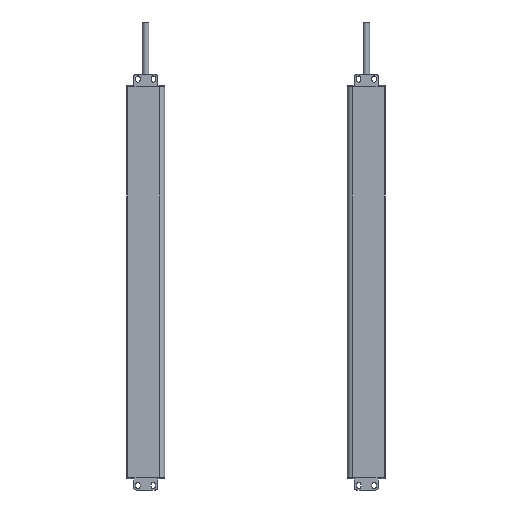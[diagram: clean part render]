
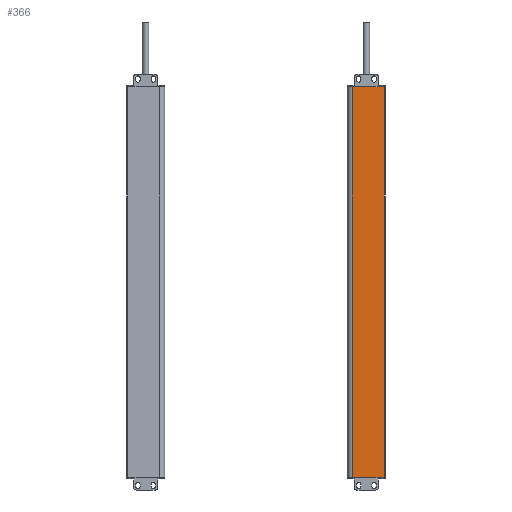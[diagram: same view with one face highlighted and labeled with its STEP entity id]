
A CAD part, front view. The second image highlights one B-rep face of the part: STEP entity #366.
In plain terms, the highlighted planar face has unit normal (0, -1, 0).
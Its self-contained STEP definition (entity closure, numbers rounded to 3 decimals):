
#123=PLANE('',#5869);
#366=ADVANCED_FACE('',(#797),#123,.T.);
#797=FACE_OUTER_BOUND('',#1073,.T.);
#1073=EDGE_LOOP('',(#1780,#1781,#1782,#1783));
#1780=ORIENTED_EDGE('',*,*,#3977,.T.);
#1781=ORIENTED_EDGE('',*,*,#3978,.F.);
#1782=ORIENTED_EDGE('',*,*,#3979,.F.);
#1783=ORIENTED_EDGE('',*,*,#3903,.T.);
#3351=VERTEX_POINT('',#8106);
#3352=VERTEX_POINT('',#8108);
#3421=VERTEX_POINT('',#8253);
#3422=VERTEX_POINT('',#8257);
#3903=EDGE_CURVE('',#3352,#3351,#4726,.T.);
#3977=EDGE_CURVE('',#3351,#3421,#4771,.T.);
#3978=EDGE_CURVE('',#3422,#3421,#4772,.T.);
#3979=EDGE_CURVE('',#3352,#3422,#4773,.T.);
#4726=LINE('',#8107,#5280);
#4771=LINE('',#8254,#5325);
#4772=LINE('',#8256,#5326);
#4773=LINE('',#8258,#5327);
#5280=VECTOR('',#6413,1.);
#5325=VECTOR('',#6522,1.);
#5326=VECTOR('',#6525,1.);
#5327=VECTOR('',#6526,1.);
#5869=AXIS2_PLACEMENT_3D('',#8259,#6527,#6528);
#6413=DIRECTION('',(1.,0.,0.));
#6522=DIRECTION('',(0.,0.,1.));
#6525=DIRECTION('',(1.,0.,0.));
#6526=DIRECTION('',(0.,0.,1.));
#6527=DIRECTION('',(0.,-1.,0.));
#6528=DIRECTION('',(-1.,0.,0.));
#8106=CARTESIAN_POINT('',(3.35,-1.3,-100.));
#8107=CARTESIAN_POINT('',(-21.15,-1.3,-100.));
#8108=CARTESIAN_POINT('',(-21.15,-1.3,-100.));
#8253=CARTESIAN_POINT('',(3.35,-1.3,202.));
#8254=CARTESIAN_POINT('',(3.35,-1.3,-100.));
#8256=CARTESIAN_POINT('',(-4122.897,-1.3,202.));
#8257=CARTESIAN_POINT('',(-21.15,-1.3,202.));
#8258=CARTESIAN_POINT('',(-21.15,-1.3,-100.));
#8259=CARTESIAN_POINT('',(-21.15,-1.3,-100.));
